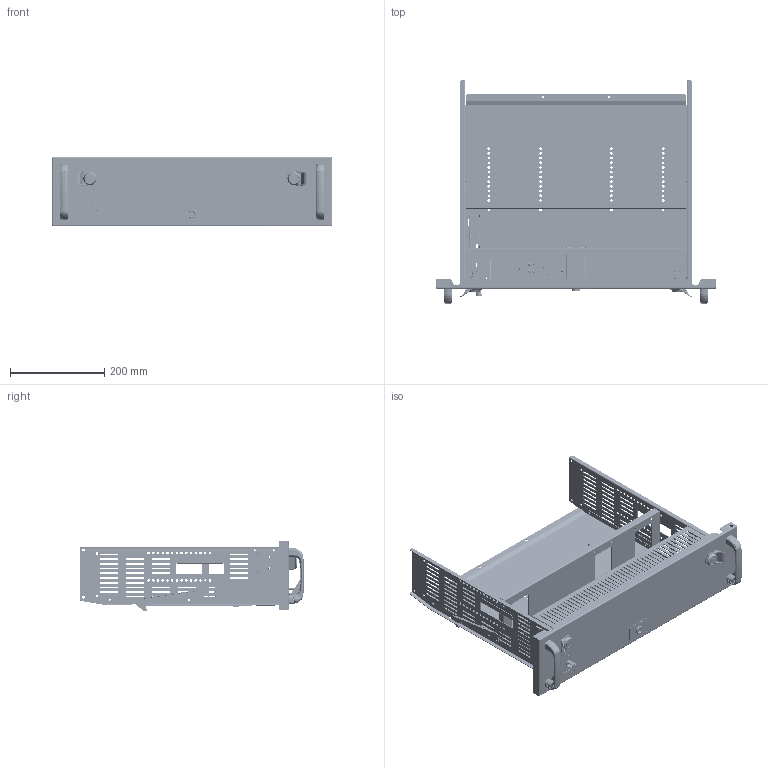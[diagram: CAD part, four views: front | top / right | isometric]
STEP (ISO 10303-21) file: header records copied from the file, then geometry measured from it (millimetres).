
FILE_DESCRIPTION(('CAx-IF Rec.Pracs.---Model Styling and Organization---1.2---2011-12-15','CAx-IF Rec.Pracs.---Geometric and Assembly Validation Properties---4.1---2014-06-16','CAx-IF Rec.Pracs.---PMI Polyline Presentation---2.0---2013-05-24'),'2;1');
FILE_NAME('R5M2W3M1B-L.stp','2021-05-05T12:13:11+03:00',(''),(''),'STEP Interface 4.4 by CT CoreTechnologie','3D_Evolution4.4 by CT CoreTechnologie','');
FILE_SCHEMA(('AUTOMOTIVE_DESIGN { 1 0 10303 214 1 1 1 1 }'));
Length unit declared in the file: millimetre
Products named in the file (72): R5M2W3M1B; 4.444.001; PR.DT477.100.02; PR.DT477.100.01; Ì5-GOST 5915-70 (DIN 934)_straight; RB.1943.00.00.0_-00; RB.1943.00.01.0_-00; M6 art.MGR-MKO-0625_2¬¬; RB.1499.00.02.0_-00; RB.1499.00.04.0_-00; RB.1944.00.00.0_-00; RB.1944.00.01.0_-00; RB.1499.00.04.0_-01; RB.1511.00.00.0_default; RB.1942.00.00.0_-00; PF 3.5x7 RAMmcc 2.0_00; RB.1942.00.01.0_-00; RB.1166.00.02.0_¢ à 1; RB.1166.00.03.0_-00; RB.1166.00.04.0_-00; PF 7x14 RAMmcc 2.0_3å1; Ì6õ12-A5100231_straight; RB.1166.00.05.0; RB.1505.00.00.1 ÑÁ; M5x12-DIN 7500M ISR_stright; Ì4-GOST R 50273-92 (DIN 985)_stright DIN EN ISO 10511 - M4 - N; RB.1505.00.02.0; RB.1505.00.01.1; RB.1504.00.00.1 ÑÁ; RB.1504.00.01.1; RB.1504.00.02.1_-01; RB.1504.00.02.1_-00; RB.1504.00.03.1; RB.1504.01.00.0 ÑÁ; RB.1504.01.01.0; M6-DIN 985 (ISO 10511) (CM250600)_stright; RB.1505.00.03.0_-00; A.6.01-GOST 11371-78 (DIN 125A) (CM240600)_ ©¡  A.6.016  11371-78; RB.1513.00.00.0; M5x8-DIN7500C_stright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
Assembly tree (110 placements, depth 5):
  R5M2W3M1B
    4.444.001  x2
      PR.DT477.100.02
      PR.DT477.100.01
    Ì5-GOST 5915-70 (DIN 934)_straight  x4
    RB.1943.00.00.0_-00
      RB.1943.00.01.0_-00
      M6 art.MGR-MKO-0625_2¬¬  x2
      RB.1499.00.02.0_-00  x2
      RB.1499.00.04.0_-00
    RB.1944.00.00.0_-00
      RB.1944.00.01.0_-00
      M6 art.MGR-MKO-0625_2¬¬  x2
      RB.1499.00.04.0_-01
    RB.1511.00.00.0_default
    RB.1942.00.00.0_-00
      PF 3.5x7 RAMmcc 2.0_00
      RB.1942.00.01.0_-00
      RB.1166.00.02.0_¢ à 1
      RB.1166.00.03.0_-00
      RB.1166.00.04.0_-00
      PF 7x14 RAMmcc 2.0_3å1
      Ì6õ12-A5100231_straight
      RB.1166.00.05.0  x2
    RB.1505.00.00.1 ÑÁ
      M5x12-DIN 7500M ISR_stright  x7
      Ì4-GOST R 50273-92 (DIN 985)_stright DIN EN ISO 10511 - M4 - N  x10
      RB.1505.00.02.0  x2
      RB.1505.00.01.1
      RB.1504.00.00.1 ÑÁ
        RB.1504.00.01.1
        RB.1504.00.02.1_-01
        RB.1504.00.02.1_-00
        RB.1504.00.03.1
        RB.1504.01.00.0 ÑÁ
          RB.1504.01.01.0
      M6-DIN 985 (ISO 10511) (CM250600)_stright
      RB.1505.00.03.0_-00
      A.6.01-GOST 11371-78 (DIN 125A) (CM240600)_ ©¡  A.6.016  11371-78
      RB.1513.00.00.0
      M5x8-DIN7500C_stright  x2
      RB.1505.00.04.0_-00
      RB.1503.00.00.0 ÑÁ
        RB.1503.00.01.0_-00
        RB.1503.00.02.0_-00
        RB.1503.00.04.0_123
        RB.1503.00.05.0_123
        RB.1503.00.06.0_-00
        RB.1503.00.07.0_-00
      RB.1505.00.05.0_-00
      RB.1505.00.06.0
      RB.1500.00.00.1 ÑÁ_-00 (ëª«)
        M6-DIN 985 (ISO 10511) (CM250600)_stright
        Ì4-GOST R 50273-92 (DIN 985)_stright DIN EN ISO 10511 - M4 - N
        M4x25 GOST 17473-80 (DIN 7985)_stright
        RB.1500.00.03.0
        RB.1500.00.04.1_-00
        RB.1500.00.05.1
        RB.1500.00.06.0
        RB.1500.00.07.0
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Bounding box: 594 x 475.78 x 148.93 mm (x, y, z)
Surface area: 1370466.5 mm2 (no closed solid volume)
Topology: 0 solids, 143 shells, 5914 faces, 15251 edges, 9497 vertices
Faces by surface type: plane 2737, bspline 1737, cylinder 1440
Full cylindrical faces by diameter (mm): 3.2 x2
Entity records: 164453 total; most frequent: CARTESIAN_POINT 55726, ORIENTED_EDGE 22250, DIRECTION 21117, EDGE_CURVE 11149, VECTOR 7199, LINE 7199, VERTEX_POINT 7094, AXIS2_PLACEMENT_3D 6959
